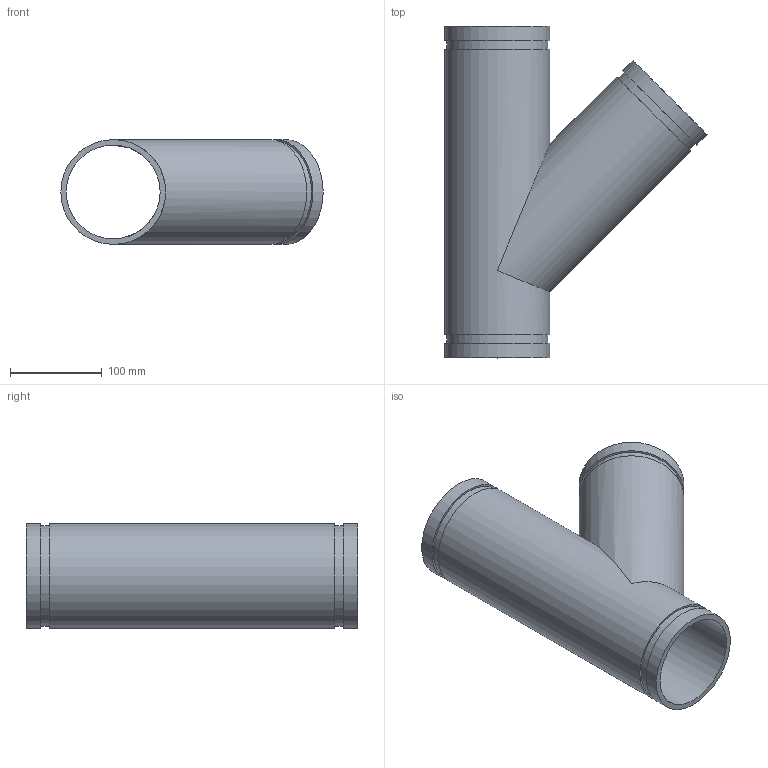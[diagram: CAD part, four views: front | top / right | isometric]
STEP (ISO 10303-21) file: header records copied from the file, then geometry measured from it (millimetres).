
FILE_DESCRIPTION(/* description */ ('VIC 45 DEG FABRICATED LATERAL No 30 SWS (OGS)','CAx-IF Rec.Pracs.---Representation and Presentation of Product Manufacturing Information (PMI)---4.0---2014-10-13'),/* implementation_level */ '2;1');
FILE_NAME(/* name */ 'C:\Users\kkamble\AppData\Roaming\Autodesk\ApplicationPlugins\Back Up\Victaulic_IPS_Lateral 45 Deg_No 30 SWS (OGS)\Victaulic_IPS_Lateral 45 Deg_No 30 SWS (OGS)_4 (100).stp',/* time_stamp */ '2020-09-16T22:20:48+06:00',/* author */ ('cgray'),/* organization */ ('Victaulic'),/* preprocessor_version */ 'ST-DEVELOPER v17.2',/* originating_system */ 'Autodesk Inventor 2019',/* authorisation */ '');
FILE_SCHEMA (('AP242_MANAGED_MODEL_BASED_3D_ENGINEERING_MIM_LF { 1 0 10303 442 1 1 4 }'));
Length unit declared in the file: inch
Products named in the file (1): 30 SWS-04.0
Bounding box: 286.15 x 361.95 x 114.3 mm (x, y, z)
Volume: 1066261.9 mm3; surface area: 371392.4 mm2
Topology: 1 solids, 1 shells, 19 faces, 45 edges, 34 vertices
Faces by surface type: cylinder 10, plane 9
Full cylindrical faces by diameter (mm): 102.26 x2, 110.084 x3, 114.3 x5
Entity records: 748 total; most frequent: DIRECTION 145, CARTESIAN_POINT 116, ORIENTED_EDGE 90, AXIS2_PLACEMENT_3D 67, EDGE_CURVE 45, VERTEX_POINT 34, EDGE_LOOP 29, CIRCLE 27
